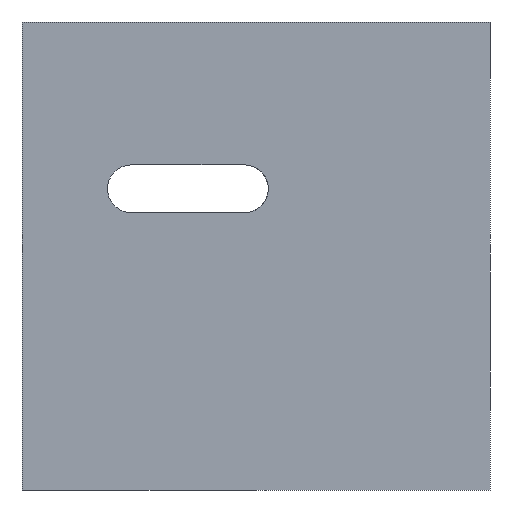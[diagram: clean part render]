
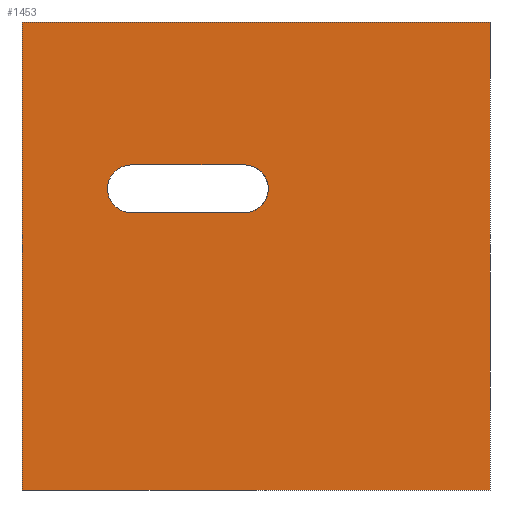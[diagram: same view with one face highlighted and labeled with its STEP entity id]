
A CAD part, left-side view. The second image highlights one B-rep face of the part: STEP entity #1453.
In plain terms, the highlighted planar face has unit normal (-1, 0, 0).
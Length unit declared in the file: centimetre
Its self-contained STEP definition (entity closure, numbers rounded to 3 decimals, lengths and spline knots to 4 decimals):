
#23 = ORIENTED_EDGE ( 'NONE', *, *, #1356, .T. ) ;
#37 = VERTEX_POINT ( 'NONE', #1580 ) ;
#55 = AXIS2_PLACEMENT_3D ( 'NONE', #1273, #388, #650 ) ;
#90 = CARTESIAN_POINT ( 'NONE',  ( 0., 1000., 1000. ) ) ;
#102 = ORIENTED_EDGE ( 'NONE', *, *, #919, .F. ) ;
#104 = DIRECTION ( 'NONE',  ( 0., -1., 0. ) ) ;
#151 = CARTESIAN_POINT ( 'NONE',  ( 0., 1000., 0. ) ) ;
#172 = ORIENTED_EDGE ( 'NONE', *, *, #1532, .F. ) ;
#188 = CARTESIAN_POINT ( 'NONE',  ( 0., 1000., 1000. ) ) ;
#193 = EDGE_CURVE ( 'NONE', #806, #1481, #1518, .T. ) ;
#213 = VECTOR ( 'NONE', #997, 100. ) ;
#224 = CARTESIAN_POINT ( 'NONE',  ( 0., 0., 1000. ) ) ;
#232 = AXIS2_PLACEMENT_3D ( 'NONE', #1253, #392, #1358 ) ;
#249 = VERTEX_POINT ( 'NONE', #509 ) ;
#268 = CARTESIAN_POINT ( 'NONE',  ( 0., 524.8828, 694.6431 ) ) ;
#298 = DIRECTION ( 'NONE',  ( 0., 0., -1. ) ) ;
#323 = CARTESIAN_POINT ( 'NONE',  ( 0., 766.2129, 592.4195 ) ) ;
#328 = ORIENTED_EDGE ( 'NONE', *, *, #462, .F. ) ;
#361 = LINE ( 'NONE', #90, #916 ) ;
#364 = EDGE_LOOP ( 'NONE', ( #172, #1146, #102, #566 ) ) ;
#388 = DIRECTION ( 'NONE',  ( -1., 0., 0. ) ) ;
#392 = DIRECTION ( 'NONE',  ( 1., 0., 0. ) ) ;
#399 = CARTESIAN_POINT ( 'NONE',  ( 0., 766.2129, 643.5313 ) ) ;
#420 = VECTOR ( 'NONE', #589, 100. ) ;
#462 = EDGE_CURVE ( 'NONE', #922, #37, #567, .T. ) ;
#468 = LINE ( 'NONE', #1331, #420 ) ;
#499 = VERTEX_POINT ( 'NONE', #323 ) ;
#509 = CARTESIAN_POINT ( 'NONE',  ( 0., 766.2129, 694.6431 ) ) ;
#510 = VERTEX_POINT ( 'NONE', #1207 ) ;
#513 = PLANE ( 'NONE',  #232 ) ;
#540 = VERTEX_POINT ( 'NONE', #188 ) ;
#544 = AXIS2_PLACEMENT_3D ( 'NONE', #399, #778, #298 ) ;
#566 = ORIENTED_EDGE ( 'NONE', *, *, #1072, .F. ) ;
#567 = LINE ( 'NONE', #1311, #1595 ) ;
#589 = DIRECTION ( 'NONE',  ( 0., -1., 0. ) ) ;
#650 = DIRECTION ( 'NONE',  ( 0., 0., -1. ) ) ;
#655 = LINE ( 'NONE', #1145, #213 ) ;
#718 = LINE ( 'NONE', #1070, #963 ) ;
#754 = ORIENTED_EDGE ( 'NONE', *, *, #1084, .T. ) ;
#778 = DIRECTION ( 'NONE',  ( -1., 0., 0. ) ) ;
#806 = VERTEX_POINT ( 'NONE', #1498 ) ;
#864 = DIRECTION ( 'NONE',  ( 0., 0., -1. ) ) ;
#907 = LINE ( 'NONE', #151, #1495 ) ;
#916 = VECTOR ( 'NONE', #864, 100. ) ;
#919 = EDGE_CURVE ( 'NONE', #499, #806, #468, .T. ) ;
#922 = VERTEX_POINT ( 'NONE', #224 ) ;
#923 = DIRECTION ( 'NONE',  ( 0., -1., 0. ) ) ;
#963 = VECTOR ( 'NONE', #104, 100. ) ;
#997 = DIRECTION ( 'NONE',  ( 0., 1., 0. ) ) ;
#1013 = CIRCLE ( 'NONE', #544, 51.1118 ) ;
#1070 = CARTESIAN_POINT ( 'NONE',  ( 0., 1000., 1000. ) ) ;
#1072 = EDGE_CURVE ( 'NONE', #249, #499, #1013, .T. ) ;
#1084 = EDGE_CURVE ( 'NONE', #510, #37, #907, .T. ) ;
#1130 = FACE_OUTER_BOUND ( 'NONE', #1205, .T. ) ;
#1145 = CARTESIAN_POINT ( 'NONE',  ( 0., 766.2129, 694.6431 ) ) ;
#1146 = ORIENTED_EDGE ( 'NONE', *, *, #193, .F. ) ;
#1187 = DIRECTION ( 'NONE',  ( 0., 0., -1. ) ) ;
#1205 = EDGE_LOOP ( 'NONE', ( #754, #328, #1592, #23 ) ) ;
#1207 = CARTESIAN_POINT ( 'NONE',  ( 0., 1000., 0. ) ) ;
#1253 = CARTESIAN_POINT ( 'NONE',  ( 0., 1000., 1000. ) ) ;
#1273 = CARTESIAN_POINT ( 'NONE',  ( 0., 524.8828, 643.5313 ) ) ;
#1311 = CARTESIAN_POINT ( 'NONE',  ( 0., 0., 1000. ) ) ;
#1331 = CARTESIAN_POINT ( 'NONE',  ( 0., 524.8828, 592.4195 ) ) ;
#1356 = EDGE_CURVE ( 'NONE', #540, #510, #361, .T. ) ;
#1358 = DIRECTION ( 'NONE',  ( 0., 0., -1. ) ) ;
#1412 = EDGE_CURVE ( 'NONE', #540, #922, #718, .T. ) ;
#1453 = ADVANCED_FACE ( 'NONE', ( #1484, #1130 ), #513, .F. ) ;
#1481 = VERTEX_POINT ( 'NONE', #268 ) ;
#1484 = FACE_BOUND ( 'NONE', #364, .T. ) ;
#1495 = VECTOR ( 'NONE', #923, 100. ) ;
#1498 = CARTESIAN_POINT ( 'NONE',  ( 0., 524.8828, 592.4195 ) ) ;
#1518 = CIRCLE ( 'NONE', #55, 51.1118 ) ;
#1532 = EDGE_CURVE ( 'NONE', #1481, #249, #655, .T. ) ;
#1580 = CARTESIAN_POINT ( 'NONE',  ( 0., 0., 0. ) ) ;
#1592 = ORIENTED_EDGE ( 'NONE', *, *, #1412, .F. ) ;
#1595 = VECTOR ( 'NONE', #1187, 100. ) ;
